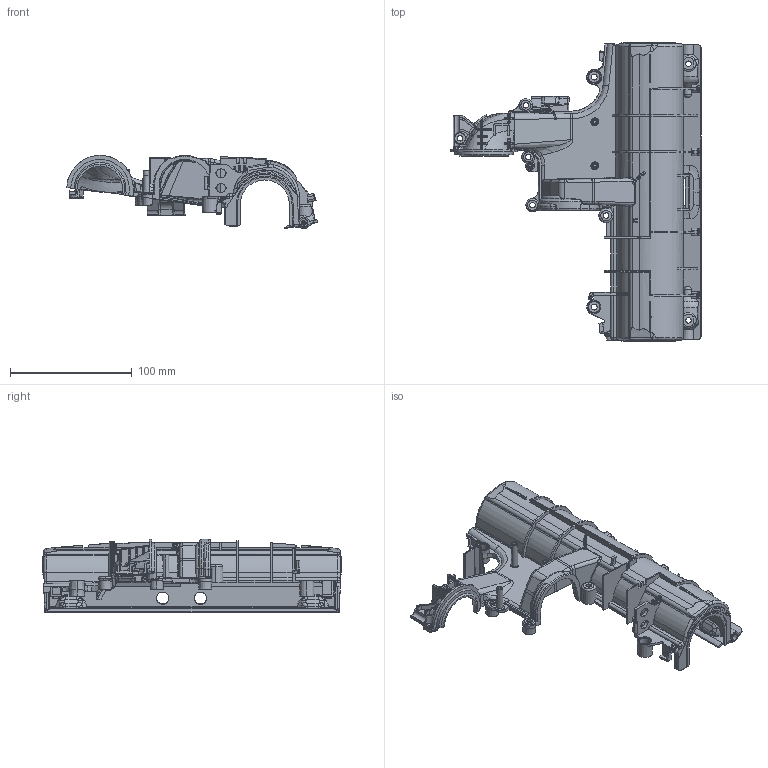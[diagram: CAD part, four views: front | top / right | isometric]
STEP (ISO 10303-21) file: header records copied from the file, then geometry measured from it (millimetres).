
FILE_DESCRIPTION((''),'2;1');
FILE_NAME('S1019-06-1Z3-ACE-0605-17_1','2019-04-17T',('Administrator'),(''),'CREO PARAMETRIC BY PTC INC, 2017170','CREO PARAMETRIC BY PTC INC, 2017170','');
FILE_SCHEMA(('CONFIG_CONTROL_DESIGN'));
Length unit declared in the file: millimetre
Products named in the file (1): S1019-06-1Z3-ACE-0605-17_1
Bounding box: 206.01 x 245.54 x 60.3 mm (x, y, z)
Volume: 122944 mm3; surface area: 126978.9 mm2
Topology: 1 solids, 1 shells, 2268 faces, 6222 edges, 3923 vertices
Faces by surface type: plane 740, cylinder 660, bspline 550, cone 135, torus 78, extrusion 55, sphere 50
Entity records: 98821 total; most frequent: CARTESIAN_POINT 47821, ORIENTED_EDGE 12286, DIRECTION 8150, EDGE_CURVE 6143, VERTEX_POINT 3922, AXIS2_PLACEMENT_3D 2815, B_SPLINE_CURVE_WITH_KNOTS 2581, VECTOR 2520
